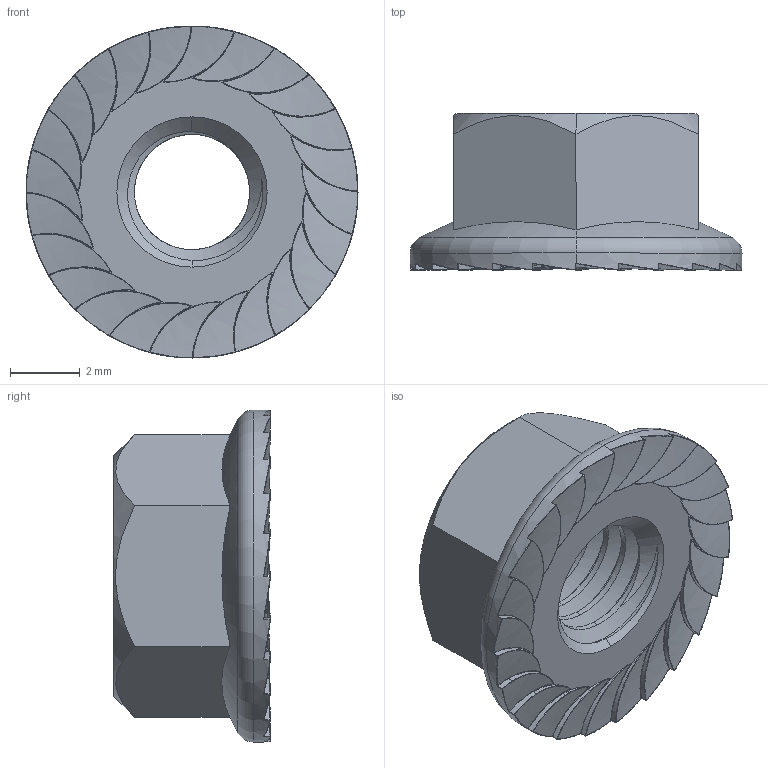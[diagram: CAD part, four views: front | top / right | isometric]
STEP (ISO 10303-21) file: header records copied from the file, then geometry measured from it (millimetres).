
FILE_DESCRIPTION (( 'STEP AP203' ), '1' );
FILE_NAME ('TANLD-304-M4.STEP', '2026-08-25T06:55:53', ( '' ), ( '' ), 'SwSTEP 2.0', 'SolidWorks 2020', '' );
FILE_SCHEMA (( 'CONFIG_CONTROL_DESIGN' ));
Length unit declared in the file: millimetre
Products named in the file (1): TANLD-304-M4
Bounding box: 9.5 x 4.49 x 9.5 mm (x, y, z)
Volume: 162.6 mm3; surface area: 296.3 mm2
Topology: 1 solids, 1 shells, 216 faces, 634 edges, 396 vertices
Faces by surface type: cylinder 97, bspline 75, sphere 25, plane 8, cone 7, torus 4
Entity records: 13130 total; most frequent: CARTESIAN_POINT 8480, ORIENTED_EDGE 1118, DIRECTION 779, EDGE_CURVE 559, AXIS2_PLACEMENT_3D 347, VERTEX_POINT 346, B_SPLINE_CURVE_WITH_KNOTS 255, EDGE_LOOP 217
